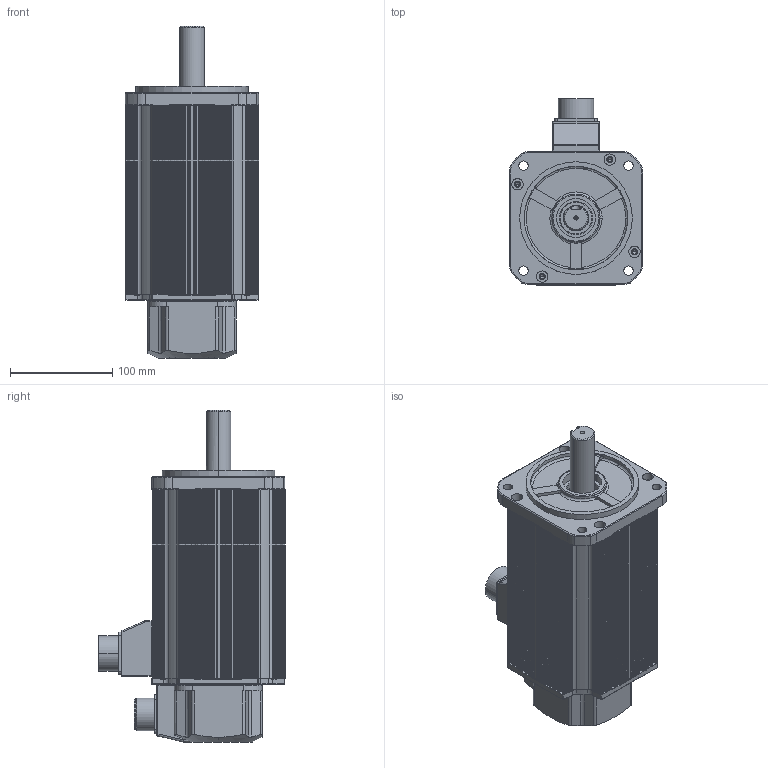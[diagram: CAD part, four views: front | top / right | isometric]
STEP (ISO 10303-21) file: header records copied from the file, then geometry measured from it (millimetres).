
FILE_DESCRIPTION (( 'STEP AP214' ), '1' );
FILE_NAME ('KAND-30B¡à1N2.STEP', '2026-09-12T02:39:48', ( '' ), ( '' ), 'SwSTEP 2.0', 'SolidWorks 2023', '' );
FILE_SCHEMA (( 'AUTOMOTIVE_DESIGN' ));
Length unit declared in the file: millimetre
Products named in the file (11): □130 BRACKET_BR; Ø24-KEY8X51; 1005052200 ENCODER COVER; □130 FLANGE; □130-184mm; 10050523 GASKET_돌출형; MS3102A 20-29P; KAND-30B□1N2; 10050907 RUBBER SEAL_MS22 or MS24; 10050908 CONNECTOR BOX_MS22 or MS24; MS3102A 22_표준
Assembly tree (10 placements, depth 2):
  KAND-30B□1N2
    □130-184mm
    □130 FLANGE
    □130 BRACKET_BR
    1005052200 ENCODER COVER
    10050523 GASKET_돌출형
    MS3102A 20-29P
    Ø24-KEY8X51
    10050907 RUBBER SEAL_MS22 or MS24
    10050908 CONNECTOR BOX_MS22 or MS24
    MS3102A 22_표준
Bounding box: 130 x 182.05 x 324.2 mm (x, y, z)
Volume: 791352.9 mm3; surface area: 432638.1 mm2
Topology: 10 solids, 10 shells, 2426 faces, 6741 edges, 4359 vertices
Faces by surface type: plane 1142, cylinder 956, torus 181, bspline 83, cone 54, sphere 10
Entity records: 81697 total; most frequent: CARTESIAN_POINT 18369, ORIENTED_EDGE 13358, DIRECTION 13328, EDGE_CURVE 6679, AXIS2_PLACEMENT_3D 4682, VERTEX_POINT 4359, LINE 3964, VECTOR 3964
